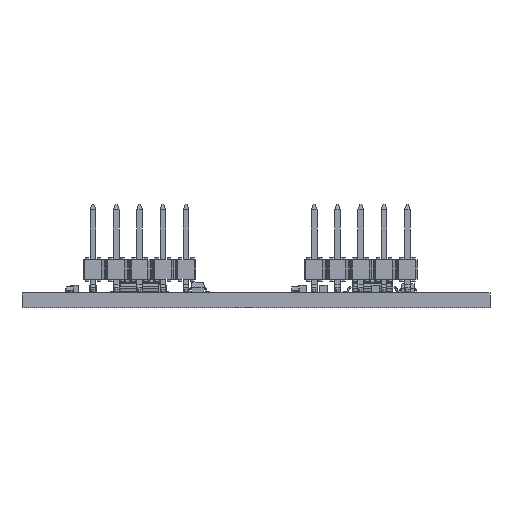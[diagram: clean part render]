
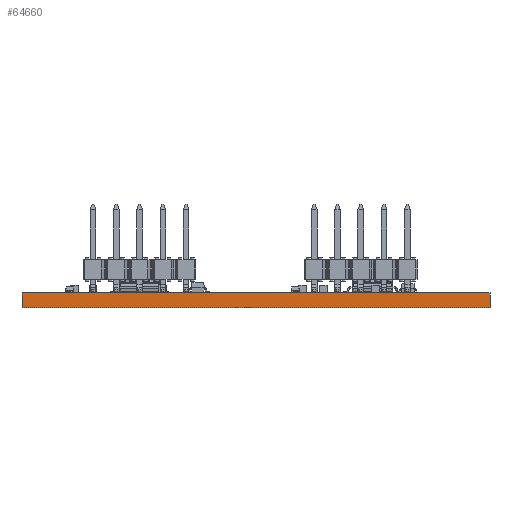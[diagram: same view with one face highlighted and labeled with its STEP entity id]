
A CAD part, front view. The second image highlights one B-rep face of the part: STEP entity #64660.
In plain terms, the highlighted planar face has unit normal (0, -1, 0).
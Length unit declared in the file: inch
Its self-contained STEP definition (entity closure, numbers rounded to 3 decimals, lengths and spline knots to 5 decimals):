
#1140 = DIRECTION ( 'NONE',  ( 1., 0., 0. ) ) ;
#1546 = CARTESIAN_POINT ( 'NONE',  ( 0., 0., 0.06299 ) ) ;
#2132 = CARTESIAN_POINT ( 'NONE',  ( 0., 0., 0.06299 ) ) ;
#2514 = EDGE_LOOP ( 'NONE', ( #47784, #40244, #34465, #49650, #51379, #31323 ) ) ;
#6403 = CARTESIAN_POINT ( 'NONE',  ( 1.013, 0., 0.06299 ) ) ;
#6883 = CARTESIAN_POINT ( 'NONE',  ( 0., 0., 0. ) ) ;
#14492 = VECTOR ( 'NONE', #15237, 39.37008 ) ;
#14943 = EDGE_CURVE ( 'NONE', #59945, #24092, #57912, .T. ) ;
#15237 = DIRECTION ( 'NONE',  ( 1., 0., 0. ) ) ;
#21239 = VECTOR ( 'NONE', #53900, 39.37008 ) ;
#22372 = PLANE ( 'NONE',  #64817 ) ;
#22541 = CARTESIAN_POINT ( 'NONE',  ( 2.01, 0., 0.06299 ) ) ;
#22692 = CARTESIAN_POINT ( 'NONE',  ( 2.01, 0., 0.06299 ) ) ;
#22833 = CARTESIAN_POINT ( 'NONE',  ( 0., 0., 0.06299 ) ) ;
#23677 = EDGE_CURVE ( 'NONE', #41907, #24092, #36296, .T. ) ;
#24092 = VERTEX_POINT ( 'NONE', #54700 ) ;
#25199 = CARTESIAN_POINT ( 'NONE',  ( 0., 0., 0.06299 ) ) ;
#26459 = CARTESIAN_POINT ( 'NONE',  ( 0., 0., 0.06299 ) ) ;
#27260 = LINE ( 'NONE', #2132, #41235 ) ;
#29110 = VERTEX_POINT ( 'NONE', #30769 ) ;
#30769 = CARTESIAN_POINT ( 'NONE',  ( 0.997, 0., 0.06299 ) ) ;
#31323 = ORIENTED_EDGE ( 'NONE', *, *, #36104, .T. ) ;
#32189 = EDGE_CURVE ( 'NONE', #29110, #34401, #60888, .T. ) ;
#34401 = VERTEX_POINT ( 'NONE', #6403 ) ;
#34465 = ORIENTED_EDGE ( 'NONE', *, *, #45181, .F. ) ;
#36104 = EDGE_CURVE ( 'NONE', #56100, #41907, #63320, .T. ) ;
#36277 = DIRECTION ( 'NONE',  ( 0., 0., -1. ) ) ;
#36296 = LINE ( 'NONE', #6883, #63005 ) ;
#38781 = EDGE_CURVE ( 'NONE', #56100, #29110, #27260, .T. ) ;
#40244 = ORIENTED_EDGE ( 'NONE', *, *, #14943, .F. ) ;
#41235 = VECTOR ( 'NONE', #1140, 39.37008 ) ;
#41562 = VECTOR ( 'NONE', #60208, 39.37008 ) ;
#41907 = VERTEX_POINT ( 'NONE', #51796 ) ;
#43749 = CARTESIAN_POINT ( 'NONE',  ( 0., 0., 0.06299 ) ) ;
#44086 = DIRECTION ( 'NONE',  ( 0., 1., 0. ) ) ;
#45181 = EDGE_CURVE ( 'NONE', #34401, #59945, #56538, .T. ) ;
#46276 = VECTOR ( 'NONE', #36277, 39.37008 ) ;
#46455 = FACE_OUTER_BOUND ( 'NONE', #2514, .T. ) ;
#47784 = ORIENTED_EDGE ( 'NONE', *, *, #23677, .T. ) ;
#49650 = ORIENTED_EDGE ( 'NONE', *, *, #32189, .F. ) ;
#51379 = ORIENTED_EDGE ( 'NONE', *, *, #38781, .F. ) ;
#51796 = CARTESIAN_POINT ( 'NONE',  ( 0., 0., 0. ) ) ;
#52811 = DIRECTION ( 'NONE',  ( 1., 0., 0. ) ) ;
#53900 = DIRECTION ( 'NONE',  ( 0., 0., -1. ) ) ;
#54700 = CARTESIAN_POINT ( 'NONE',  ( 2.01, 0., 0. ) ) ;
#56100 = VERTEX_POINT ( 'NONE', #22833 ) ;
#56538 = LINE ( 'NONE', #26459, #14492 ) ;
#57912 = LINE ( 'NONE', #22541, #21239 ) ;
#59945 = VERTEX_POINT ( 'NONE', #22692 ) ;
#60208 = DIRECTION ( 'NONE',  ( 1., 0., 0. ) ) ;
#60888 = LINE ( 'NONE', #25199, #41562 ) ;
#63005 = VECTOR ( 'NONE', #52811, 39.37008 ) ;
#63320 = LINE ( 'NONE', #1546, #46276 ) ;
#63671 = DIRECTION ( 'NONE',  ( 0., 0., 1. ) ) ;
#64660 = ADVANCED_FACE ( 'NONE', ( #46455 ), #22372, .F. ) ;
#64817 = AXIS2_PLACEMENT_3D ( 'NONE', #43749, #44086, #63671 ) ;
